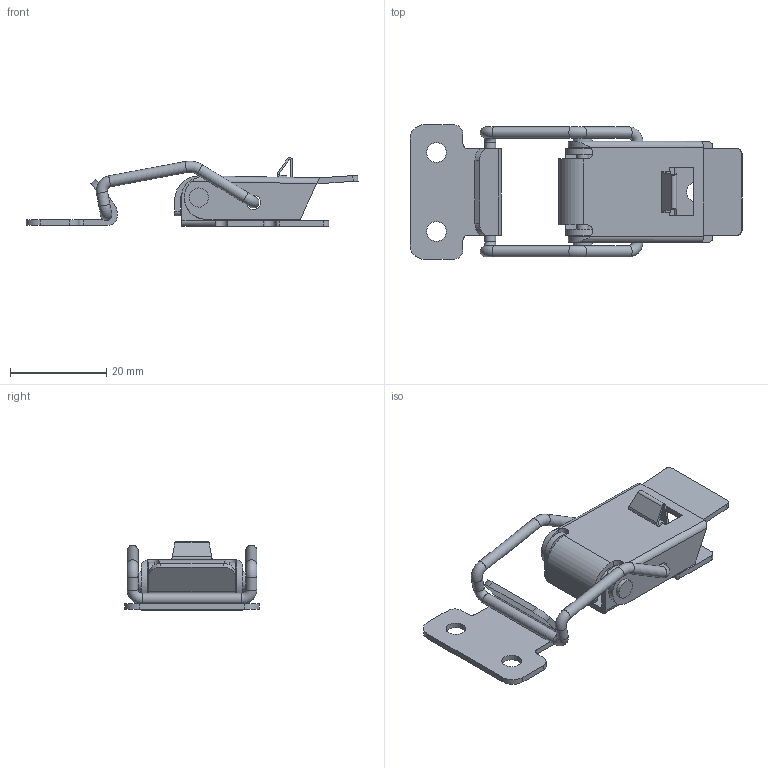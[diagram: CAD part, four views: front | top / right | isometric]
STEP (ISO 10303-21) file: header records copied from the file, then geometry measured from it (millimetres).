
FILE_DESCRIPTION(/* description */ (''),/* implementation_level */ '2;1');
FILE_NAME(/* name */ 'KC-1324.stp',/* time_stamp */ '2010-11-12T14:29:55+09:00',/* author */ (''),/* organization */ (''),/* preprocessor_version */ 'ST-DEVELOPER v11',/* originating_system */ 'SIEMENS UGS NX 6.0',/* authorisation */ '');
FILE_SCHEMA (('CONFIG_CONTROL_DESIGN'));
Length unit declared in the file: millimetre
Products named in the file (6): KC-1324-Part5; KC-1324-Part2; KC-1324-Part1; KC-1324-Part4; KC-1324-Part3; KC-1324
Assembly tree (5 placements, depth 2):
  KC-1324
    KC-1324-Part3
    KC-1324-Part4
    KC-1324-Part1
    KC-1324-Part2
    KC-1324-Part5
Bounding box: 68.99 x 28 x 14.3 mm (x, y, z)
Volume: 3465.3 mm3; surface area: 6685.3 mm2
Topology: 5 solids, 5 shells, 149 faces, 390 edges, 254 vertices
Faces by surface type: plane 77, cylinder 64, torus 8
Full cylindrical faces by diameter (mm): 2 x1, 2.3 x9, 2.5 x1, 3 x6, 4 x2, 4.1 x4
Entity records: 5136 total; most frequent: CARTESIAN_POINT 814, DIRECTION 785, ORIENTED_EDGE 710, EDGE_CURVE 355, AXIS2_PLACEMENT_3D 281, VERTEX_POINT 250, LINE 223, VECTOR 223
